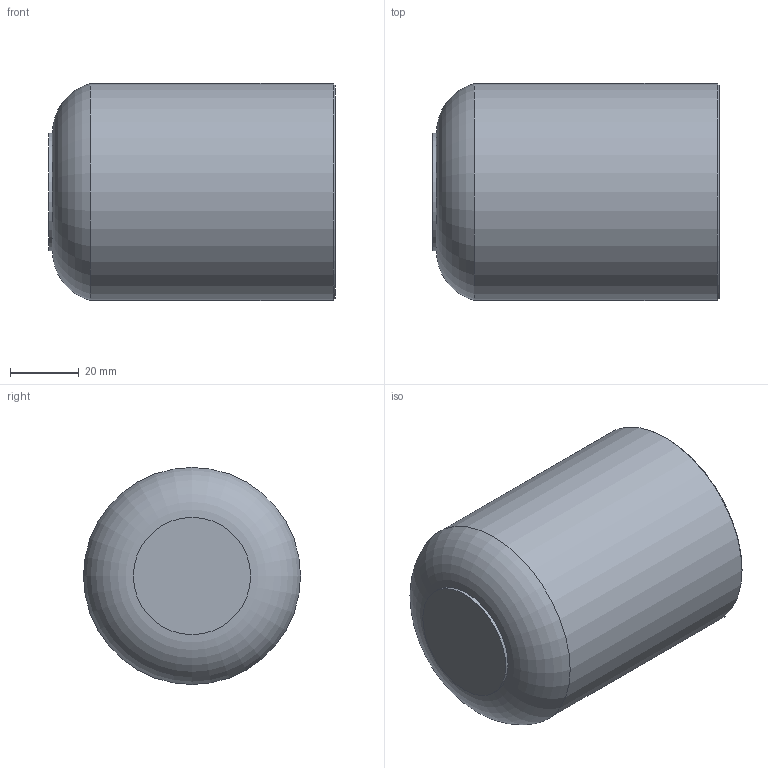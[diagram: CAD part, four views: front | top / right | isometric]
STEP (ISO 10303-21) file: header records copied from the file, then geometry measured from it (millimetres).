
FILE_DESCRIPTION(/* description */ ('Unknown'),/* implementation_level */ '2;1');
FILE_NAME(/* name */ 'CAP063G',/* time_stamp */ '2022-04-05T11:51:06+02:00',/* author */ ('Unknown'),/* organization */ ('Unknown'),/* preprocessor_version */ 'ST-DEVELOPER v18.1',/* originating_system */ 'Solid Edge',/* authorisation */ 'Unknown');
FILE_SCHEMA (('AUTOMOTIVE_DESIGN {1 0 10303 214 3 1 1}'));
Length unit declared in the file: millimetre
Products named in the file (1): CAP063G
Bounding box: 83 x 63 x 63 mm (x, y, z)
Volume: 114301.4 mm3; surface area: 31824.2 mm2
Topology: 1 solids, 1 shells, 9 faces, 15 edges, 9 vertices
Faces by surface type: plane 3, cylinder 3, torus 2, cone 1
Full cylindrical faces by diameter (mm): 34 x1, 48.8 x1, 63 x1
Entity records: 204 total; most frequent: DIRECTION 36, CARTESIAN_POINT 26, AXIS2_PLACEMENT_3D 18, ORIENTED_EDGE 16, EDGE_LOOP 16, FACE_BOUND 16, ADVANCED_FACE 9, EDGE_CURVE 8
